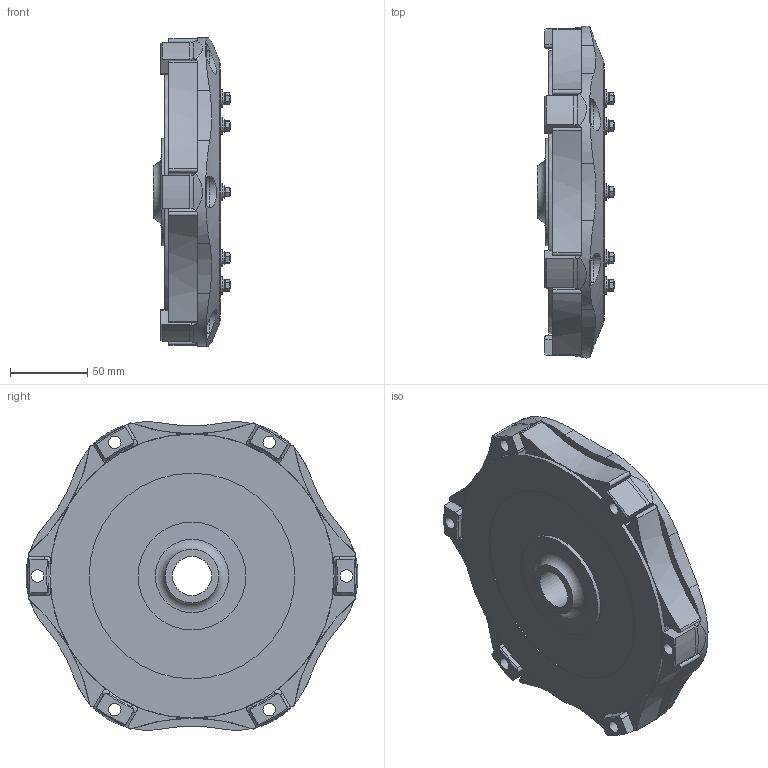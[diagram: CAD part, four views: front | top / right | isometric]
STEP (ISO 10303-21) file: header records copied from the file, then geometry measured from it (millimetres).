
FILE_DESCRIPTION(/* description */ ('Unknown'),/* implementation_level */ '2;1');
FILE_NAME(/* name */ '66-002HG-AA',/* time_stamp */ '2021-03-24T06:53:39-07:00',/* author */ ('Unknown'),/* organization */ ('Unknown'),/* preprocessor_version */ 'ST-DEVELOPER v16.7',/* originating_system */ 'DEX',/* authorisation */ $);
FILE_SCHEMA (('AUTOMOTIVE_DESIGN {1 0 10303 214 3 1 1}'));
Length unit declared in the file: millimetre
Products named in the file (1): 66-002HG-AA
Bounding box: 50.03 x 215.2 x 199.98 mm (x, y, z)
Volume: 855318.3 mm3; surface area: 146295.4 mm2
Topology: 1 solids, 1 shells, 726 faces, 1902 edges, 1236 vertices
Faces by surface type: plane 343, cylinder 306, cone 41, torus 36
Full cylindrical faces by diameter (mm): 4.572 x8, 4.902 x8, 8.077 x6, 8.128 x8, 9.093 x6, 11.176 x8, 25.4 x1, 69.85 x1, 97.472 x1, 114.3 x1, 133.35 x1, 184.15 x1
Entity records: 22233 total; most frequent: CARTESIAN_POINT 4554, DIRECTION 3752, ORIENTED_EDGE 3588, EDGE_CURVE 1794, AXIS2_PLACEMENT_3D 1427, VERTEX_POINT 1200, LINE 898, VECTOR 898
